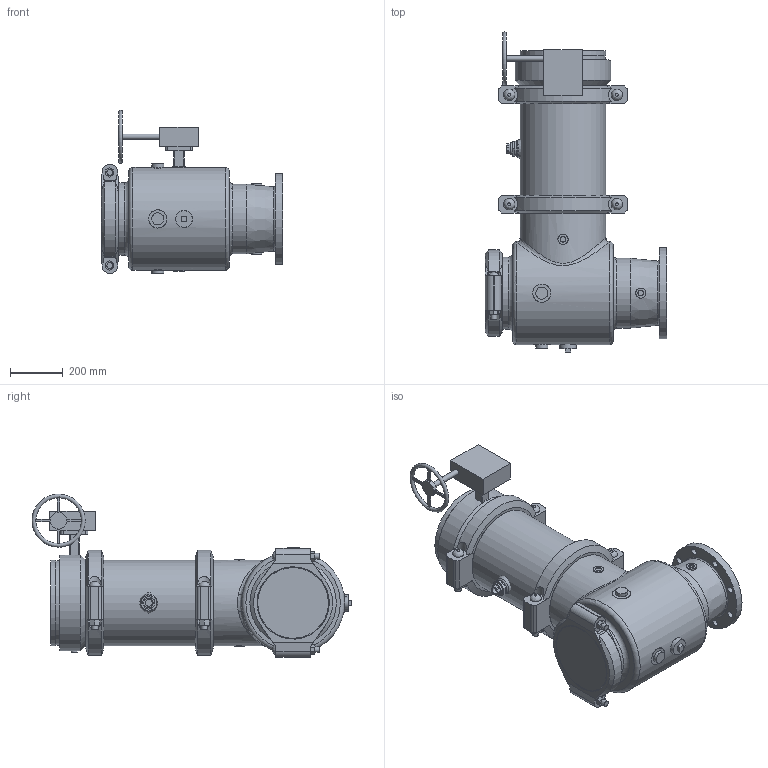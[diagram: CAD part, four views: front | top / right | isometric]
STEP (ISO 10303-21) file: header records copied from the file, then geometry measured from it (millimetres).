
FILE_DESCRIPTION(/* description */ ('VIC SVI PUMP DROP HORZ S/391 (OGSxFLG)','CAx-IF Rec.Pracs.---Representation and Presentation of Product Manufacturing Information (PMI)---4.0---2014-10-13'),/* implementation_level */ '2;1');
FILE_NAME(/* name */ 'C:\Users\Vjadhav\AppData\Roaming\Autodesk\ApplicationPlugins\Victaulic.Temp\A952\Victaulic_IPS_SVI_CL 150_Series 391 (OGSxFLG)_12.0x08.0 (300x200).stp',/* time_stamp */ '2021-04-09T17:55:07+05:00',/* author */ ('kkamble'),/* organization */ ('Victaulic'),/* preprocessor_version */ 'ST-DEVELOPER v17.2',/* originating_system */ 'Autodesk Inventor 2019',/* authorisation */ '');
FILE_SCHEMA (('AP242_MANAGED_MODEL_BASED_3D_ENGINEERING_MIM_LF { 1 0 10303 442 1 1 4 }'));
Length unit declared in the file: inch
Products named in the file (9): 391-12.0x08.0; 731D-12.0x08.0; 731D-12.0x08.0_1; 731D-12.0; 07-10.0; PIPE-12.0; 761-12.0; 077-12.0; 923-10.0x0.75
Assembly tree (9 placements, depth 3):
  391-12.0x08.0
    731D-12.0x08.0
      731D-12.0x08.0_1
      731D-12.0
      07-10.0
    PIPE-12.0
    761-12.0
    077-12.0  x2
    923-10.0x0.75
Bounding box: 685.8 x 1208.26 x 618.47 mm (x, y, z)
Volume: 43987064.2 mm3; surface area: 4236154.5 mm2
Topology: 8 solids, 15 shells, 447 faces, 1121 edges, 769 vertices
Faces by surface type: plane 249, cylinder 159, cone 19, torus 10, bspline 8, sphere 2
Full cylindrical faces by diameter (mm): 10.922 x4, 20.066 x1, 21.336 x5, 22.225 x4, 22.86 x1, 24.994 x8, 25.4 x8, 26.67 x1, 27.432 x4, 31.75 x1, 37.694 x2, 38.1 x4, 45.72 x3, 45.974 x2, 55.626 x1, 63.079 x1, 63.5 x1, 70.104 x1, 76.2 x1, 203.2 x1, 233.68 x1, 246.888 x1, 247.65 x1, 260.35 x1, 263.652 x1, 268.275 x2, 273.05 x5, 296.926 x1, 303.225 x1, 304.8 x1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
Entity records: 14135 total; most frequent: CARTESIAN_POINT 3679, DIRECTION 2122, ORIENTED_EDGE 1952, EDGE_CURVE 976, AXIS2_PLACEMENT_3D 830, VERTEX_POINT 671, EDGE_LOOP 495, LINE 462
